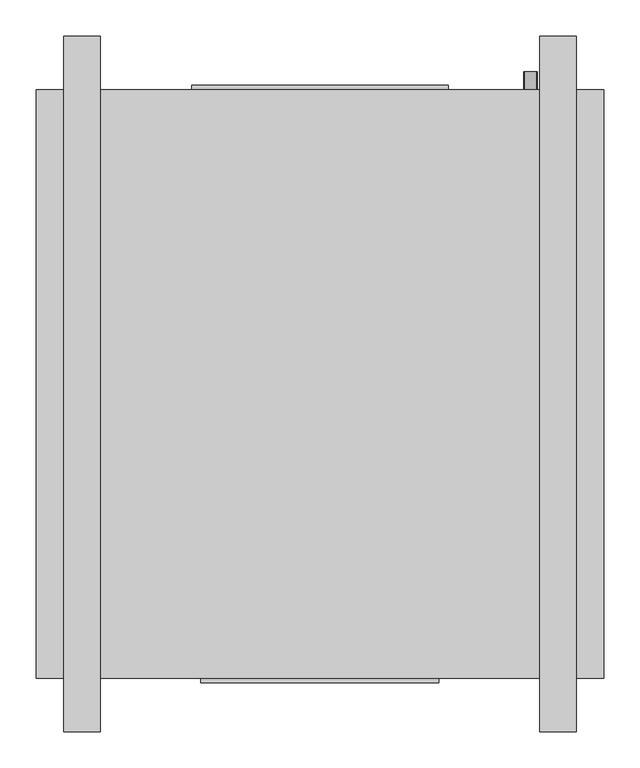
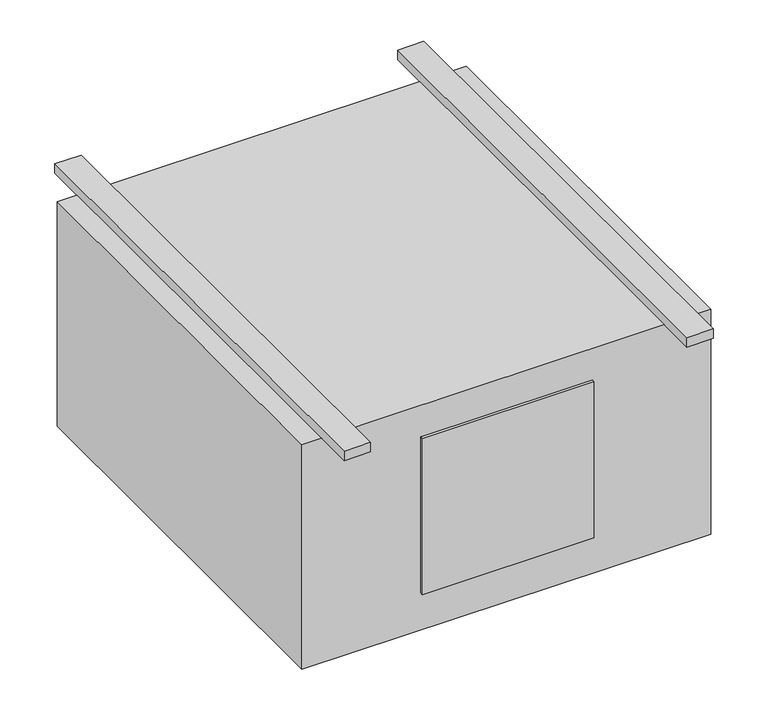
"""IFC4 building model written with IfcOpenShell, lengths in millimetres: proxy geometry, Exposed_High_Capacity_Horizontal_Cabinet_Fan_Coil_Unit_-_42DFA_-_CARRIER_-_4-Pipe_RH_2022 : Size 06 - 277v/60Hz/1Ph - 6/2 Coil."""

from ifc_helpers import new_model, si_unit, point, frame, frame_2d, origin, origin_with_axes, place, context, project, spatial, polyline, circle_curve, trimmed, segment, composite_curve, outline, extrude, source, transform, mapped, element, save


def mechanical_equipment_0a2ce578(model_context):
    return source(origin(), model_context, "Body", "SweptSolid", [
        extrude(outline(composite_curve([segment(trimmed(circle_curve(frame_2d((-406.4, 444.5)), 9.525), [point((-406.4, 434.975))], [point((-406.4, 454.025))], False, "CARTESIAN"), True, "CONTINUOUS"), segment(trimmed(circle_curve(frame_2d((-406.4, 444.5)), 9.525), [point((-406.4, 454.025))], [point((-406.4, 434.975))], False, "CARTESIAN"), True, "CONTINUOUS")], self_intersect=False)), frame((0.0, 169.8625, 0.0), z_axis=(0.0, 1.0, 0.0), x_axis=(0.0, 0.0, 1.0)), (0.0, 0.0, 1.0), 25.4),
        extrude(outline(composite_curve([segment(trimmed(circle_curve(frame_2d((-330.2, 444.5)), 7.9375), [point((-330.2, 436.5625))], [point((-330.2, 452.4375))], False, "CARTESIAN"), True, "CONTINUOUS"), segment(trimmed(circle_curve(frame_2d((-330.2, 444.5)), 7.9375), [point((-330.2, 452.4375))], [point((-330.2, 436.5625))], False, "CARTESIAN"), True, "CONTINUOUS")], self_intersect=False)), frame((0.0, 169.8625, 0.0), z_axis=(0.0, 1.0, 0.0), x_axis=(0.0, 0.0, 1.0)), (0.0, 0.0, 1.0), 25.4),
        extrude(outline(composite_curve([segment(trimmed(circle_curve(frame_2d((-254.0, 444.5)), 7.9375), [point((-254.0, 436.5625))], [point((-254.0, 452.4375))], False, "CARTESIAN"), True, "CONTINUOUS"), segment(trimmed(circle_curve(frame_2d((-254.0, 444.5)), 7.9375), [point((-254.0, 452.4375))], [point((-254.0, 436.5625))], False, "CARTESIAN"), True, "CONTINUOUS")], self_intersect=False)), frame((0.0, 169.8625, 0.0), z_axis=(0.0, 1.0, 0.0), x_axis=(0.0, 0.0, 1.0)), (0.0, 0.0, 1.0), 25.4),
        extrude(outline(composite_curve([segment(trimmed(circle_curve(frame_2d((-177.8, 444.5)), 7.9375), [point((-177.8, 436.5625))], [point((-177.8, 452.4375))], False, "CARTESIAN"), True, "CONTINUOUS"), segment(trimmed(circle_curve(frame_2d((-177.8, 444.5)), 7.9375), [point((-177.8, 452.4375))], [point((-177.8, 436.5625))], False, "CARTESIAN"), True, "CONTINUOUS")], self_intersect=False)), frame((0.0, 169.8625, 0.0), z_axis=(0.0, 1.0, 0.0), x_axis=(0.0, 0.0, 1.0)), (0.0, 0.0, 1.0), 25.4),
        extrude(outline(composite_curve([segment(trimmed(circle_curve(frame_2d((-101.6, 444.5)), 7.9375), [point((-101.6, 436.5625))], [point((-101.6, 452.4375))], False, "CARTESIAN"), True, "CONTINUOUS"), segment(trimmed(circle_curve(frame_2d((-101.6, 444.5)), 7.9375), [point((-101.6, 452.4375))], [point((-101.6, 436.5625))], False, "CARTESIAN"), True, "CONTINUOUS")], self_intersect=False)), frame((0.0, 169.8625, 0.0), z_axis=(0.0, 1.0, 0.0), x_axis=(0.0, 0.0, 1.0)), (0.0, 0.0, 1.0), 25.4),
        extrude(outline(polyline([(546.1, 169.8625), (546.1, -646.1125), (-241.3, -646.1125), (-241.3, 169.8625), (546.1, 169.8625)])), frame((0.0, 0.0, -457.2), z_axis=(0.0, 0.0, 1.0), x_axis=(1.0, 0.0, 0.0)), (0.0, 0.0, 1.0), 457.2),
        extrude(outline(polyline([(-25.4, 176.2125), (330.2, 176.2125), (330.2, 169.8625), (-25.4, 169.8625), (-25.4, 176.2125)])), frame((0.0, 0.0, -381.0), z_axis=(0.0, 0.0, 1.0), x_axis=(1.0, 0.0, 0.0)), (0.0, 0.0, 1.0), 355.6),
        extrude(outline(polyline([(-152.4, 244.475), (-152.4, -720.725), (-203.2, -720.725), (-203.2, 244.475), (-152.4, 244.475)])), origin_with_axes(), (0.0, 0.0, 1.0), 19.05),
        extrude(outline(polyline([(508.0, 244.475), (508.0, -720.725), (457.2, -720.725), (457.2, 244.475), (508.0, 244.475)])), origin_with_axes(), (0.0, 0.0, 1.0), 19.05),
        extrude(outline(polyline([(317.5, -652.4625), (-12.7, -652.4625), (-12.7, -646.1125), (317.5, -646.1125), (317.5, -652.4625)])), frame((0.0, 0.0, -381.0), z_axis=(0.0, 0.0, 1.0), x_axis=(1.0, 0.0, 0.0)), (0.0, 0.0, 1.0), 317.5),
    ])


if __name__ == "__main__":
    model = new_model("IFC4")
    model_context = context("Model", 3, world=origin())
    ifc_project = project(units=[si_unit("LENGTHUNIT", "METRE", prefix="MILLI")], contexts=[model_context])
    site = spatial("IfcSite", under=ifc_project)
    building = spatial("IfcBuilding", under=site)
    placement = place(None, origin())
    mechanical_equipment_shape = mechanical_equipment_0a2ce578(model_context)
    element("IfcBuildingElementProxy", 1, Name="Exposed_High_Capacity_Horizontal_Cabinet_Fan_Coil_Unit_-_42DFA_-_CARRIER_-_4-Pipe_RH_2022 : Size 06 - 277v/60Hz/1Ph - 6/2 Coil", ObjectType="Exposed_High_Capacity_Horizontal_Cabinet_Fan_Coil_Unit_-_42DFA_-_CARRIER_-_4-Pipe_RH_2022 : Size 06 - 277v/60Hz/1Ph - 6/2 Coil", at=placement, inside=building, context=model_context, shape_type="MappedRepresentation", body=[
        mapped(mechanical_equipment_shape, transform((0.0, 0.0, 0.0), x_axis=(1.0, 0.0, 0.0), y_axis=(0.0, 1.0, 0.0), z_axis=(0.0, 0.0, 1.0))),
    ])
    save(model, "model.ifc")
